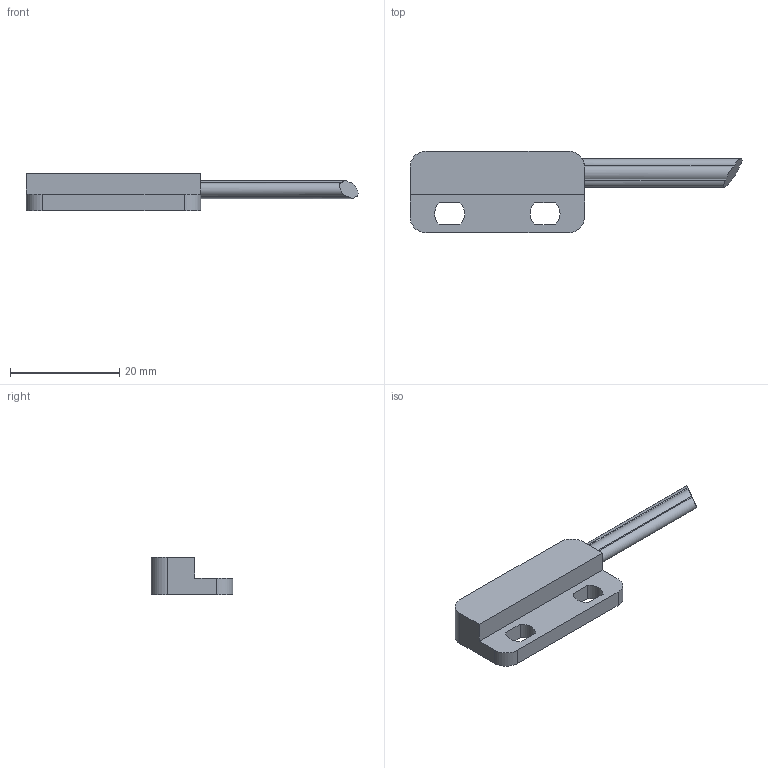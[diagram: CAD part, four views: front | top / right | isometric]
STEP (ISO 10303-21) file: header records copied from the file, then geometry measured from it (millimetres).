
FILE_DESCRIPTION((''),'2;1');
FILE_NAME('C:\Vault_local\Designs\Stock\3D pour clients\préparations\2D3D 507 A.stp','2009-08-05T10:42:40',('Georges THOLLOT ','Responsable ','Mthodes et Industrialisation',' Tl : +33 (0)4 77 53 90 27','gthollot@celduc.com'),('Celduc r e l a i s','5, rue Ampre, BP 30004','42290 SORBIERS - France','Fax. : +33 (0)4 77 53 85 51','N siret 353 310 519 00015','ISO 9001 N QUAL/1993/1106b','www.celduc.com'),'Autodesk Inventor 2009','Autodesk Inventor 2009','');
FILE_SCHEMA(('AUTOMOTIVE_DESIGN { 1 0 10303 214 1 1 1 1 }'));
Length unit declared in the file: millimetre
Products named in the file (1): PLA
Bounding box: 60.84 x 15 x 6.8 mm (x, y, z)
Volume: 2604.7 mm3; surface area: 1899.1 mm2
Topology: 1 solids, 1 shells, 29 faces, 81 edges, 54 vertices
Faces by surface type: plane 17, cylinder 12
Entity records: 1018 total; most frequent: CARTESIAN_POINT 198, DIRECTION 163, ORIENTED_EDGE 162, EDGE_CURVE 81, AXIS2_PLACEMENT_3D 55, VERTEX_POINT 54, VECTOR 53, LINE 53
